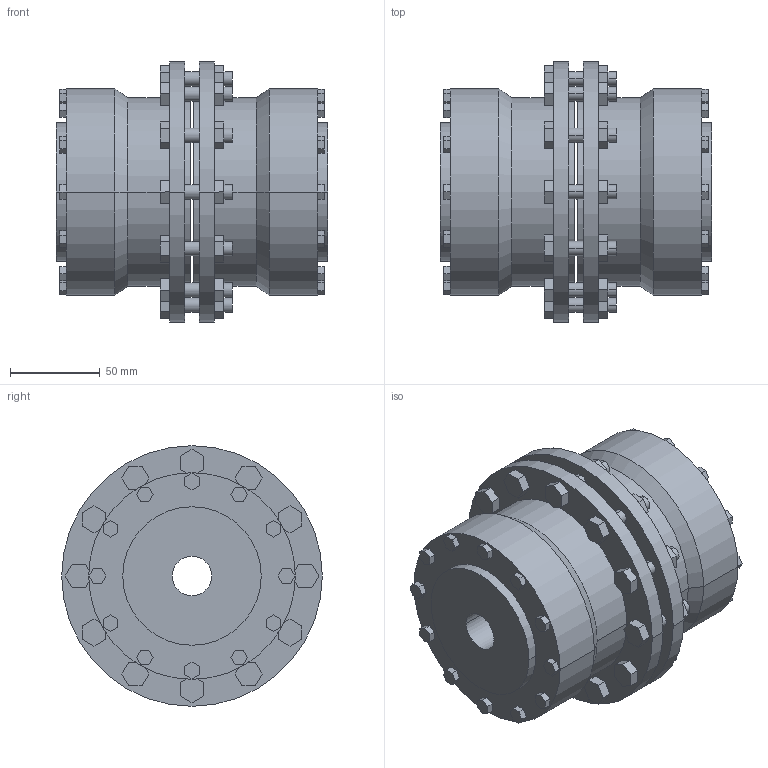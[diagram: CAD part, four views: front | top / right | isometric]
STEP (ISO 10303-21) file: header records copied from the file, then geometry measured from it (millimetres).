
FILE_DESCRIPTION((''),'2;1');
FILE_NAME('A19729200-0_ASM','2019-05-23T',('AB_Roschiwal'),('RENK AG'),'PRO/ENGINEER BY PARAMETRIC TECHNOLOGY CORPORATION, 2015440','PRO/ENGINEER BY PARAMETRIC TECHNOLOGY CORPORATION, 2015440','');
FILE_SCHEMA(('CONFIG_CONTROL_DESIGN'));
Length unit declared in the file: millimetre
Products named in the file (3): SBKT48_GEHAEUSE; SBKT48_NABE; A19729200-0_ASM
Assembly tree (3 placements, depth 2):
  A19729200-0_ASM
    SBKT48_GEHAEUSE
    SBKT48_NABE  x2
Bounding box: 151 x 145 x 145 mm (x, y, z)
Volume: 1204085.8 mm3; surface area: 223386.2 mm2
Topology: 3 solids, 3 shells, 458 faces, 1132 edges, 752 vertices
Faces by surface type: plane 366, cylinder 88, cone 4
Entity records: 13260 total; most frequent: CARTESIAN_POINT 2296, ORIENTED_EDGE 2216, DIRECTION 2172, EDGE_CURVE 1108, VECTOR 948, LINE 948, VERTEX_POINT 736, AXIS2_PLACEMENT_3D 612
